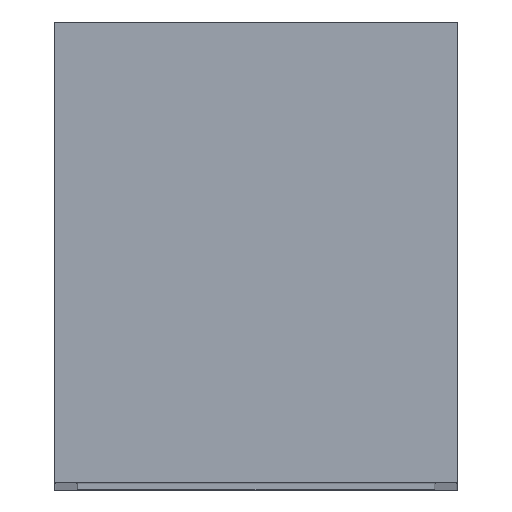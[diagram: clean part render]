
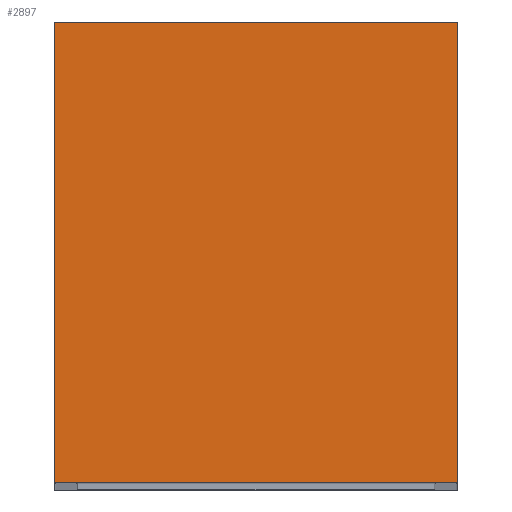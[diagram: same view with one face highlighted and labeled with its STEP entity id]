
A CAD part, top view. The second image highlights one B-rep face of the part: STEP entity #2897.
In plain terms, the highlighted planar face has unit normal (0, 0, 1).
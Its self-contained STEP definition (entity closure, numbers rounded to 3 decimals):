
#7 = LINE ( 'NONE', #2735, #1552 ) ;
#97 = EDGE_LOOP ( 'NONE', ( #3458, #586, #2585, #1070 ) ) ;
#379 = CARTESIAN_POINT ( 'NONE',  ( -52.5, 0., 567. ) ) ;
#429 = EDGE_CURVE ( 'NONE', #2114, #1494, #7, .T. ) ;
#441 = DIRECTION ( 'NONE',  ( 0., 0., -1. ) ) ;
#487 = CARTESIAN_POINT ( 'NONE',  ( 0., 0., 567. ) ) ;
#515 = VECTOR ( 'NONE', #2433, 1000. ) ;
#586 = ORIENTED_EDGE ( 'NONE', *, *, #2814, .T. ) ;
#779 = VECTOR ( 'NONE', #3364, 1000. ) ;
#1070 = ORIENTED_EDGE ( 'NONE', *, *, #429, .T. ) ;
#1387 = VERTEX_POINT ( 'NONE', #2224 ) ;
#1494 = VERTEX_POINT ( 'NONE', #1701 ) ;
#1521 = LINE ( 'NONE', #3959, #515 ) ;
#1552 = VECTOR ( 'NONE', #1558, 1000. ) ;
#1558 = DIRECTION ( 'NONE',  ( -1., 0., 0. ) ) ;
#1566 = VECTOR ( 'NONE', #2820, 1000. ) ;
#1701 = CARTESIAN_POINT ( 'NONE',  ( -52.5, 120., 567. ) ) ;
#1775 = EDGE_CURVE ( 'NONE', #1387, #2114, #1521, .T. ) ;
#1852 = EDGE_CURVE ( 'NONE', #1494, #3163, #2375, .T. ) ;
#2019 = FACE_OUTER_BOUND ( 'NONE', #97, .T. ) ;
#2057 = CARTESIAN_POINT ( 'NONE',  ( 52.5, 120., 567. ) ) ;
#2114 = VERTEX_POINT ( 'NONE', #2057 ) ;
#2213 = LINE ( 'NONE', #2409, #779 ) ;
#2224 = CARTESIAN_POINT ( 'NONE',  ( 52.5, 0., 567. ) ) ;
#2375 = LINE ( 'NONE', #379, #1566 ) ;
#2409 = CARTESIAN_POINT ( 'NONE',  ( -52.5, 0., 567. ) ) ;
#2433 = DIRECTION ( 'NONE',  ( 0., 1., 0. ) ) ;
#2585 = ORIENTED_EDGE ( 'NONE', *, *, #1775, .T. ) ;
#2735 = CARTESIAN_POINT ( 'NONE',  ( -52.5, 120., 567. ) ) ;
#2814 = EDGE_CURVE ( 'NONE', #3163, #1387, #2213, .T. ) ;
#2820 = DIRECTION ( 'NONE',  ( 0., -1., 0. ) ) ;
#2897 = ADVANCED_FACE ( 'NONE', ( #2019 ), #3189, .F. ) ;
#3163 = VERTEX_POINT ( 'NONE', #3663 ) ;
#3189 = PLANE ( 'NONE',  #3705 ) ;
#3364 = DIRECTION ( 'NONE',  ( 1., 0., 0. ) ) ;
#3458 = ORIENTED_EDGE ( 'NONE', *, *, #1852, .T. ) ;
#3488 = DIRECTION ( 'NONE',  ( -1., 0., 0. ) ) ;
#3663 = CARTESIAN_POINT ( 'NONE',  ( -52.5, 0., 567. ) ) ;
#3705 = AXIS2_PLACEMENT_3D ( 'NONE', #487, #441, #3488 ) ;
#3959 = CARTESIAN_POINT ( 'NONE',  ( 52.5, 0., 567. ) ) ;
